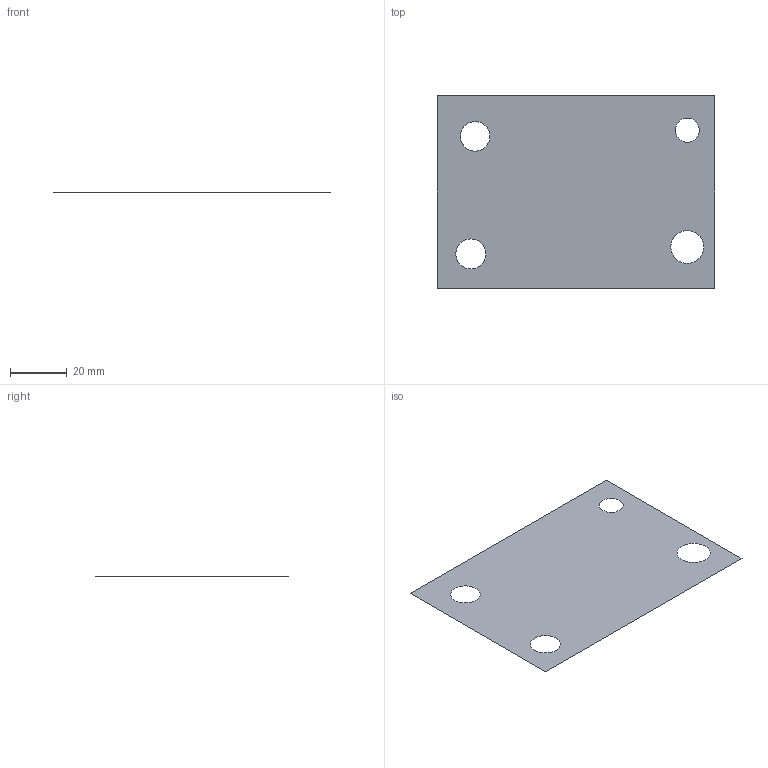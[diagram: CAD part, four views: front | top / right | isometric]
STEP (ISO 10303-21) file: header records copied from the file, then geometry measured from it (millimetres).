
FILE_DESCRIPTION (( 'STEP AP203' ), '1' );
FILE_NAME ('plaque.STEP', '2020-12-12T20:15:24', ( '' ), ( '' ), 'SwSTEP 2.0', 'SolidWorks 2020', '' );
FILE_SCHEMA (( 'CONFIG_CONTROL_DESIGN' ));
Length unit declared in the file: millimetre
Products named in the file (1): plaque
Bounding box: 97.83 x 67.85 x 0 mm (x, y, z)
Surface area: 6301.2 mm2 (no closed solid volume)
Topology: 0 solids, 1 shells, 1 faces, 8 edges, 8 vertices
Faces by surface type: plane 1
Entity records: 169 total; most frequent: CARTESIAN_POINT 18, DIRECTION 16, PERSON_AND_ORGANIZATION 8, ORIENTED_EDGE 8, EDGE_CURVE 8, VERTEX_POINT 8, AXIS2_PLACEMENT_3D 6, COORDINATED_UNIVERSAL_TIME_OFFSET 5
